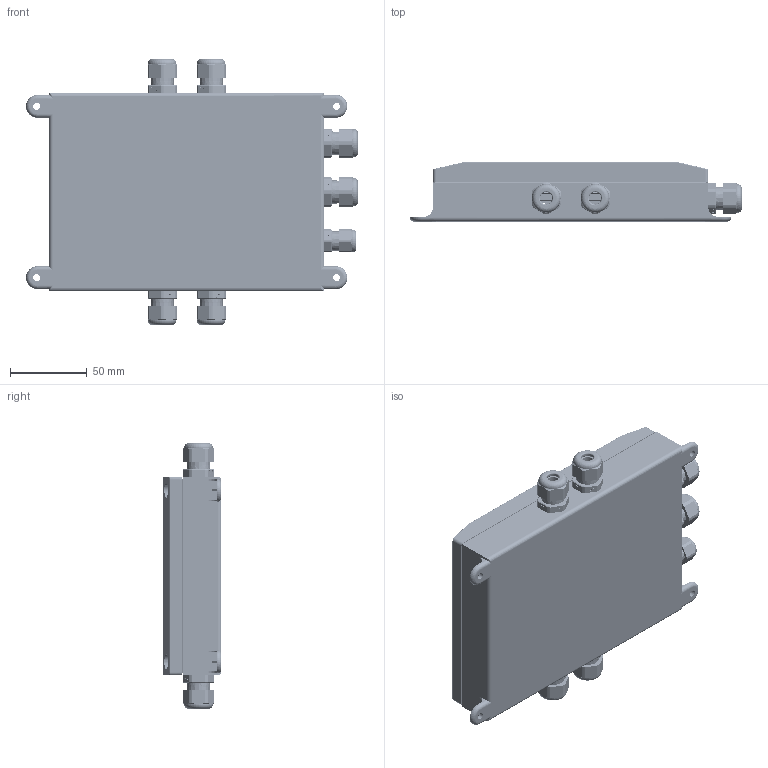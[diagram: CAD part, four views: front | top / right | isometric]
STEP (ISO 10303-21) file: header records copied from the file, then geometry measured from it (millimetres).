
FILE_DESCRIPTION((''),'1');
FILE_NAME('ETLB_4-channel_ABS.step','2023-11-06T13:17:42',(''),(''),'','','');
FILE_SCHEMA(('AUTOMOTIVE_DESIGN { 1 0 10303 214 1 1 1 1 }'));
Products named in the file (50): ETLB cover 01; ETLB body 01; ETLB seal 01; ETLB washer 01; ETLB screw 01; ETLB 4-channel_ABS; ETLB part 02; ETLB screw 02; ETLB part 03; ETLB screw 04; ETLB part 04; ETLB part 05; ETLB display 01; ETLB display 02; ETLB spacer 01; ETLB spacer 02; ETLB part 06; ETLB part 07; ETLB part 08; ETLB part 09; ETLB button 01; ETLB part 10; ETLB cover 02; ETLB nut 01; ETLB connector 01; 1; 12; 13; ETLB part 12; ETLB part 13; 2; 22; 23; ETLB circuit board 01; ETLB housing 01; ETLB body 03; ETLB part 15; ETLB cable gland 01; ETLB cable gland 02; ETLB seal 02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
Assembly tree (114 placements, depth 6):
  ETLB 4-channel_ABS
    ETLB cover 01
      ETLB body 01
      ETLB seal 01
      ETLB washer 01  x4
      ETLB screw 01  x4
    ETLB part 02
      ETLB screw 02  x4
      ETLB part 03
        ETLB screw 04  x4
        ETLB part 04
        ETLB part 05
        ETLB display 01
        ETLB display 02
        ETLB spacer 01  x2
        ETLB spacer 02  x4
        ETLB part 06  x4
        ETLB part 07
        ETLB part 08
        ETLB part 09  x2
        ETLB button 01  x4
      ETLB part 10
        ETLB cover 02
        ETLB nut 01  x4
        ETLB connector 01
        ETLB part 12
          1
            12  x10
            13  x10
          ETLB part 13
          2
            22  x4
            23
      ETLB circuit board 01
    ETLB housing 01
      ETLB body 03
      ETLB part 15  x4
    ETLB cable gland 01
      ETLB cable gland 02
      ETLB seal 02
      ETLB nut 02
    ETLB cable gland 04
      ETLB cable gland 05
      ETLB seal 03
      ETLB nut 03
    ETLB cable gland 04
      ETLB cable gland 05
      ETLB seal 03
      ETLB nut 03
    ETLB cable gland 04
      ETLB cable gland 05
      ETLB seal 03
      ETLB nut 03
    ETLB cable gland 04
      ETLB cable gland 05
      ETLB seal 03
      ETLB nut 03
    ETLB cable gland 04
      ETLB cable gland 05
      ETLB seal 03
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Bounding box: 217 x 38.5 x 174 mm (x, y, z)
Volume: 333840.6 mm3; surface area: 260285.3 mm2
Topology: 99 solids, 106 shells, 10084 faces, 25487 edges, 16478 vertices
Faces by surface type: plane 5940, cylinder 2990, cone 734, torus 368, sphere 48, bspline 4
Entity records: 162656 total; most frequent: CARTESIAN_POINT 29558, DIRECTION 25108, ORIENTED_EDGE 24730, EDGE_CURVE 12379, LINE 8474, VECTOR 8474, AXIS2_PLACEMENT_3D 8317, VERTEX_POINT 8025
